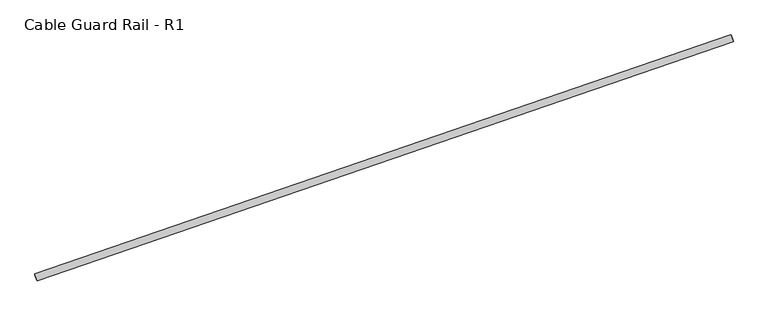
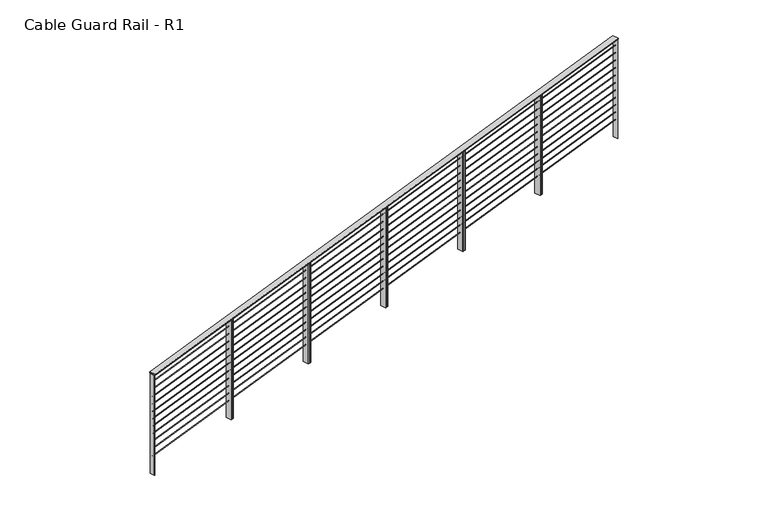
"""IFC4 building model written with IfcOpenShell, lengths in millimetres: railing geometry, Cable Guard Rail - R1."""

from ifc_helpers import new_model, si_unit, frame, origin, place, context, project, spatial, polyline, ellipse_curve, outline, extrude, faceted_brep, source, transform, mapped, element, save
from ifc_brep_helpers import plane_surface, cylinder_surface, advanced_brep


def cable_guard_rail_r1_10325f27(model_context):
    return source(origin(), model_context, "Body", "SolidModel", [
        faceted_brep([(47471.4211538, 187700.3635319, 295360.3531812), (47496.2244811, 187628.3133066, 295360.3531812), (47496.2244811, 187628.3133066, 295347.6346763), (47471.4211538, 187700.3635319, 295347.6346763), (40008.2186565, 185131.1522159, 294934.1079549), (40008.2186565, 185131.1522159, 294921.38945), (40033.0219837, 185059.1019907, 294921.38945), (40033.0219837, 185059.1019907, 294934.1079549)], [[[0, 1, 2, 3]], [[4, 5, 6, 7]], [[1, 0, 4, 7]], [[2, 1, 7, 6]], [[3, 2, 6, 5]], [[0, 3, 5, 4]]]),
        advanced_brep(
        [(47484.8562894, 187661.3363265, 295246.0531812), (47482.7893455, 187667.340512, 295246.0531812), (40021.6537921, 185092.1250106, 294819.8079549), (40019.5868481, 185098.129196, 294819.8079549)],
        [
            (0, 1, ellipse_curve(frame((47483.8228175, 187664.3384193, 295246.0531812), z_axis=(0.9455410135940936, 0.32550298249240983, 0.0), x_axis=(0.0, 0.0, 1.0)), 3.1796262, 3.175)),
            (1, 0, ellipse_curve(frame((47483.8228175, 187664.3384193, 295246.0531812), z_axis=(0.9455410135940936, 0.32550298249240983, 0.0), x_axis=(0.0, 0.0, 1.0)), 3.1796262, 3.175)),
            (2, 3, ellipse_curve(frame((40020.6203201, 185095.1271033, 294819.8079549), z_axis=(-0.9455410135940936, -0.32550298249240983, 0.0), x_axis=(0.0, 0.0, 1.0)), 3.1796262, 3.175)),
            (3, 2, ellipse_curve(frame((40020.6203201, 185095.1271033, 294819.8079549), z_axis=(-0.9455410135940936, -0.32550298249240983, 0.0), x_axis=(0.0, 0.0, 1.0)), 3.1796262, 3.175)),
            (0, 2),
            (3, 1),
        ],
        [
            plane_surface(frame((47483.8228175, 187664.3384193, 295246.0531812), z_axis=(0.9455410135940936, 0.32550298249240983, 0.0), x_axis=(0.32550298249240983, -0.9455410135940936, 0.0))),
            plane_surface(frame((40020.6203201, 185095.1271033, 294819.8079549), z_axis=(-0.9455410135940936, -0.32550298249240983, 0.0), x_axis=(0.32550298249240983, -0.9455410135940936, 0.0))),
            cylinder_surface(frame((47483.8228175, 187664.3384193, 295246.0531812), z_axis=(0.9441652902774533, 0.3250293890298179, 0.05392402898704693), x_axis=(-0.32550298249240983, 0.9455410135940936, 0.0)), 3.175),
        ],
        [
            (0, [[1, 2]]),
            (1, [[3, 4]]),
            (2, [[-1, 5, -4, 6]]),
            (2, [[-2, -6, -3, -5]]),
        ],
    ),
        advanced_brep(
        [(47484.8562894, 187661.3363265, 295144.4531812), (47482.7893455, 187667.340512, 295144.4531812), (40021.6537921, 185092.1250106, 294718.2079549), (40019.5868481, 185098.129196, 294718.2079549)],
        [
            (0, 1, ellipse_curve(frame((47483.8228175, 187664.3384193, 295144.4531812), z_axis=(0.9455410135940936, 0.32550298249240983, 0.0), x_axis=(0.0, 0.0, 1.0)), 3.1796262, 3.175)),
            (1, 0, ellipse_curve(frame((47483.8228175, 187664.3384193, 295144.4531812), z_axis=(0.9455410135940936, 0.32550298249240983, 0.0), x_axis=(0.0, 0.0, 1.0)), 3.1796262, 3.175)),
            (2, 3, ellipse_curve(frame((40020.6203201, 185095.1271033, 294718.2079549), z_axis=(-0.9455410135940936, -0.32550298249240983, 0.0), x_axis=(0.0, 0.0, 1.0)), 3.1796262, 3.175)),
            (3, 2, ellipse_curve(frame((40020.6203201, 185095.1271033, 294718.2079549), z_axis=(-0.9455410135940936, -0.32550298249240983, 0.0), x_axis=(0.0, 0.0, 1.0)), 3.1796262, 3.175)),
            (0, 2),
            (3, 1),
        ],
        [
            plane_surface(frame((47483.8228175, 187664.3384193, 295144.4531812), z_axis=(0.9455410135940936, 0.32550298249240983, 0.0), x_axis=(0.32550298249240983, -0.9455410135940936, 0.0))),
            plane_surface(frame((40020.6203201, 185095.1271033, 294718.2079549), z_axis=(-0.9455410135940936, -0.32550298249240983, 0.0), x_axis=(0.32550298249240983, -0.9455410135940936, 0.0))),
            cylinder_surface(frame((47483.8228175, 187664.3384193, 295144.4531812), z_axis=(0.9441652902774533, 0.3250293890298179, 0.05392402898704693), x_axis=(-0.32550298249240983, 0.9455410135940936, 0.0)), 3.175),
        ],
        [
            (0, [[1, 2]]),
            (1, [[3, 4]]),
            (2, [[-1, 5, -4, 6]]),
            (2, [[-2, -6, -3, -5]]),
        ],
    ),
        advanced_brep(
        [(47484.8562894, 187661.3363265, 295042.8531812), (47482.7893455, 187667.340512, 295042.8531812), (40021.6537921, 185092.1250106, 294616.6079549), (40019.5868481, 185098.129196, 294616.6079549)],
        [
            (0, 1, ellipse_curve(frame((47483.8228175, 187664.3384193, 295042.8531812), z_axis=(0.9455410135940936, 0.32550298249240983, 0.0), x_axis=(0.0, 0.0, 1.0)), 3.1796262, 3.175)),
            (1, 0, ellipse_curve(frame((47483.8228175, 187664.3384193, 295042.8531812), z_axis=(0.9455410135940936, 0.32550298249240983, 0.0), x_axis=(0.0, 0.0, 1.0)), 3.1796262, 3.175)),
            (2, 3, ellipse_curve(frame((40020.6203201, 185095.1271033, 294616.6079549), z_axis=(-0.9455410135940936, -0.32550298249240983, 0.0), x_axis=(0.0, 0.0, 1.0)), 3.1796262, 3.175)),
            (3, 2, ellipse_curve(frame((40020.6203201, 185095.1271033, 294616.6079549), z_axis=(-0.9455410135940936, -0.32550298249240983, 0.0), x_axis=(0.0, 0.0, 1.0)), 3.1796262, 3.175)),
            (0, 2),
            (3, 1),
        ],
        [
            plane_surface(frame((47483.8228175, 187664.3384193, 295042.8531812), z_axis=(0.9455410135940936, 0.32550298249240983, 0.0), x_axis=(0.32550298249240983, -0.9455410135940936, 0.0))),
            plane_surface(frame((40020.6203201, 185095.1271033, 294616.6079549), z_axis=(-0.9455410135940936, -0.32550298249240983, 0.0), x_axis=(0.32550298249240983, -0.9455410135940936, 0.0))),
            cylinder_surface(frame((47483.8228175, 187664.3384193, 295042.8531812), z_axis=(0.9441652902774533, 0.3250293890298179, 0.05392402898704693), x_axis=(-0.32550298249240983, 0.9455410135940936, 0.0)), 3.175),
        ],
        [
            (0, [[1, 2]]),
            (1, [[3, 4]]),
            (2, [[-1, 5, -4, 6]]),
            (2, [[-2, -6, -3, -5]]),
        ],
    ),
        advanced_brep(
        [(47484.8562894, 187661.3363265, 294941.2531812), (47482.7893455, 187667.340512, 294941.2531812), (40021.6537921, 185092.1250106, 294515.0079549), (40019.5868481, 185098.129196, 294515.0079549)],
        [
            (0, 1, ellipse_curve(frame((47483.8228175, 187664.3384193, 294941.2531812), z_axis=(0.9455410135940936, 0.32550298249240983, 0.0), x_axis=(0.0, 0.0, 1.0)), 3.1796262, 3.175)),
            (1, 0, ellipse_curve(frame((47483.8228175, 187664.3384193, 294941.2531812), z_axis=(0.9455410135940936, 0.32550298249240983, 0.0), x_axis=(0.0, 0.0, 1.0)), 3.1796262, 3.175)),
            (2, 3, ellipse_curve(frame((40020.6203201, 185095.1271033, 294515.0079549), z_axis=(-0.9455410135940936, -0.32550298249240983, 0.0), x_axis=(0.0, 0.0, 1.0)), 3.1796262, 3.175)),
            (3, 2, ellipse_curve(frame((40020.6203201, 185095.1271033, 294515.0079549), z_axis=(-0.9455410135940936, -0.32550298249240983, 0.0), x_axis=(0.0, 0.0, 1.0)), 3.1796262, 3.175)),
            (0, 2),
            (3, 1),
        ],
        [
            plane_surface(frame((47483.8228175, 187664.3384193, 294941.2531812), z_axis=(0.9455410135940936, 0.32550298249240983, 0.0), x_axis=(0.32550298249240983, -0.9455410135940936, 0.0))),
            plane_surface(frame((40020.6203201, 185095.1271033, 294515.0079549), z_axis=(-0.9455410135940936, -0.32550298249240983, 0.0), x_axis=(0.32550298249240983, -0.9455410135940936, 0.0))),
            cylinder_surface(frame((47483.8228175, 187664.3384193, 294941.2531812), z_axis=(0.9441652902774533, 0.3250293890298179, 0.05392402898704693), x_axis=(-0.32550298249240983, 0.9455410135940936, 0.0)), 3.175),
        ],
        [
            (0, [[1, 2]]),
            (1, [[3, 4]]),
            (2, [[-1, 5, -4, 6]]),
            (2, [[-2, -6, -3, -5]]),
        ],
    ),
        advanced_brep(
        [(47484.8562894, 187661.3363265, 294839.6531812), (47482.7893455, 187667.340512, 294839.6531812), (40021.6537921, 185092.1250106, 294413.4079549), (40019.5868481, 185098.129196, 294413.4079549)],
        [
            (0, 1, ellipse_curve(frame((47483.8228175, 187664.3384193, 294839.6531812), z_axis=(0.9455410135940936, 0.32550298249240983, 0.0), x_axis=(0.0, 0.0, 1.0)), 3.1796262, 3.175)),
            (1, 0, ellipse_curve(frame((47483.8228175, 187664.3384193, 294839.6531812), z_axis=(0.9455410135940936, 0.32550298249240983, 0.0), x_axis=(0.0, 0.0, 1.0)), 3.1796262, 3.175)),
            (2, 3, ellipse_curve(frame((40020.6203201, 185095.1271033, 294413.4079549), z_axis=(-0.9455410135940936, -0.32550298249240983, 0.0), x_axis=(0.0, 0.0, 1.0)), 3.1796262, 3.175)),
            (3, 2, ellipse_curve(frame((40020.6203201, 185095.1271033, 294413.4079549), z_axis=(-0.9455410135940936, -0.32550298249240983, 0.0), x_axis=(0.0, 0.0, 1.0)), 3.1796262, 3.175)),
            (0, 2),
            (3, 1),
        ],
        [
            plane_surface(frame((47483.8228175, 187664.3384193, 294839.6531812), z_axis=(0.9455410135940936, 0.32550298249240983, 0.0), x_axis=(0.32550298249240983, -0.9455410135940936, 0.0))),
            plane_surface(frame((40020.6203201, 185095.1271033, 294413.4079549), z_axis=(-0.9455410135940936, -0.32550298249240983, 0.0), x_axis=(0.32550298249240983, -0.9455410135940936, 0.0))),
            cylinder_surface(frame((47483.8228175, 187664.3384193, 294839.6531812), z_axis=(0.9441652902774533, 0.3250293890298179, 0.05392402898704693), x_axis=(-0.32550298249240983, 0.9455410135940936, 0.0)), 3.175),
        ],
        [
            (0, [[1, 2]]),
            (1, [[3, 4]]),
            (2, [[-1, 5, -4, 6]]),
            (2, [[-2, -6, -3, -5]]),
        ],
    ),
        advanced_brep(
        [(47484.8562894, 187661.3363265, 294738.0531812), (47482.7893455, 187667.340512, 294738.0531812), (40021.6537921, 185092.1250106, 294311.8079549), (40019.5868481, 185098.129196, 294311.8079549)],
        [
            (0, 1, ellipse_curve(frame((47483.8228175, 187664.3384193, 294738.0531812), z_axis=(0.9455410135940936, 0.32550298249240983, 0.0), x_axis=(0.0, 0.0, 1.0)), 3.1796262, 3.175)),
            (1, 0, ellipse_curve(frame((47483.8228175, 187664.3384193, 294738.0531812), z_axis=(0.9455410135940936, 0.32550298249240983, 0.0), x_axis=(0.0, 0.0, 1.0)), 3.1796262, 3.175)),
            (2, 3, ellipse_curve(frame((40020.6203201, 185095.1271033, 294311.8079549), z_axis=(-0.9455410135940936, -0.32550298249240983, 0.0), x_axis=(0.0, 0.0, 1.0)), 3.1796262, 3.175)),
            (3, 2, ellipse_curve(frame((40020.6203201, 185095.1271033, 294311.8079549), z_axis=(-0.9455410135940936, -0.32550298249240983, 0.0), x_axis=(0.0, 0.0, 1.0)), 3.1796262, 3.175)),
            (0, 2),
            (3, 1),
        ],
        [
            plane_surface(frame((47483.8228175, 187664.3384193, 294738.0531812), z_axis=(0.9455410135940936, 0.32550298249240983, 0.0), x_axis=(0.32550298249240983, -0.9455410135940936, 0.0))),
            plane_surface(frame((40020.6203201, 185095.1271033, 294311.8079549), z_axis=(-0.9455410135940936, -0.32550298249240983, 0.0), x_axis=(0.32550298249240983, -0.9455410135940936, 0.0))),
            cylinder_surface(frame((47483.8228175, 187664.3384193, 294738.0531812), z_axis=(0.9441652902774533, 0.3250293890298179, 0.05392402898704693), x_axis=(-0.32550298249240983, 0.9455410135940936, 0.0)), 3.175),
        ],
        [
            (0, [[1, 2]]),
            (1, [[3, 4]]),
            (2, [[-1, 5, -4, 6]]),
            (2, [[-2, -6, -3, -5]]),
        ],
    ),
        advanced_brep(
        [(47484.8562894, 187661.3363265, 294636.4531812), (47482.7893455, 187667.340512, 294636.4531812), (40021.6537921, 185092.1250106, 294210.2079549), (40019.5868481, 185098.129196, 294210.2079549)],
        [
            (0, 1, ellipse_curve(frame((47483.8228175, 187664.3384193, 294636.4531812), z_axis=(0.9455410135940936, 0.32550298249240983, 0.0), x_axis=(0.0, 0.0, 1.0)), 3.1796262, 3.175)),
            (1, 0, ellipse_curve(frame((47483.8228175, 187664.3384193, 294636.4531812), z_axis=(0.9455410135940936, 0.32550298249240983, 0.0), x_axis=(0.0, 0.0, 1.0)), 3.1796262, 3.175)),
            (2, 3, ellipse_curve(frame((40020.6203201, 185095.1271033, 294210.2079549), z_axis=(-0.9455410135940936, -0.32550298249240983, 0.0), x_axis=(0.0, 0.0, 1.0)), 3.1796262, 3.175)),
            (3, 2, ellipse_curve(frame((40020.6203201, 185095.1271033, 294210.2079549), z_axis=(-0.9455410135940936, -0.32550298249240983, 0.0), x_axis=(0.0, 0.0, 1.0)), 3.1796262, 3.175)),
            (0, 2),
            (3, 1),
        ],
        [
            plane_surface(frame((47483.8228175, 187664.3384193, 294636.4531812), z_axis=(0.9455410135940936, 0.32550298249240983, 0.0), x_axis=(0.32550298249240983, -0.9455410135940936, 0.0))),
            plane_surface(frame((40020.6203201, 185095.1271033, 294210.2079549), z_axis=(-0.9455410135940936, -0.32550298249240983, 0.0), x_axis=(0.32550298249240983, -0.9455410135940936, 0.0))),
            cylinder_surface(frame((47483.8228175, 187664.3384193, 294636.4531812), z_axis=(0.9441652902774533, 0.3250293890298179, 0.05392402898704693), x_axis=(-0.32550298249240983, 0.9455410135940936, 0.0)), 3.175),
        ],
        [
            (0, [[1, 2]]),
            (1, [[3, 4]]),
            (2, [[-1, 5, -4, 6]]),
            (2, [[-2, -6, -3, -5]]),
        ],
    ),
        advanced_brep(
        [(47484.8562894, 187661.3363265, 294534.8531812), (47482.7893455, 187667.340512, 294534.8531812), (40021.6537921, 185092.1250106, 294108.6079549), (40019.5868481, 185098.129196, 294108.6079549)],
        [
            (0, 1, ellipse_curve(frame((47483.8228175, 187664.3384193, 294534.8531812), z_axis=(0.9455410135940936, 0.32550298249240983, 0.0), x_axis=(0.0, 0.0, 1.0)), 3.1796262, 3.175)),
            (1, 0, ellipse_curve(frame((47483.8228175, 187664.3384193, 294534.8531812), z_axis=(0.9455410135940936, 0.32550298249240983, 0.0), x_axis=(0.0, 0.0, 1.0)), 3.1796262, 3.175)),
            (2, 3, ellipse_curve(frame((40020.6203201, 185095.1271033, 294108.6079549), z_axis=(-0.9455410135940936, -0.32550298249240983, 0.0), x_axis=(0.0, 0.0, 1.0)), 3.1796262, 3.175)),
            (3, 2, ellipse_curve(frame((40020.6203201, 185095.1271033, 294108.6079549), z_axis=(-0.9455410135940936, -0.32550298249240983, 0.0), x_axis=(0.0, 0.0, 1.0)), 3.1796262, 3.175)),
            (0, 2),
            (3, 1),
        ],
        [
            plane_surface(frame((47483.8228175, 187664.3384193, 294534.8531812), z_axis=(0.9455410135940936, 0.32550298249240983, 0.0), x_axis=(0.32550298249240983, -0.9455410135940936, 0.0))),
            plane_surface(frame((40020.6203201, 185095.1271033, 294108.6079549), z_axis=(-0.9455410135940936, -0.32550298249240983, 0.0), x_axis=(0.32550298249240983, -0.9455410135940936, 0.0))),
            cylinder_surface(frame((47483.8228175, 187664.3384193, 294534.8531812), z_axis=(0.9441652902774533, 0.3250293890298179, 0.05392402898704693), x_axis=(-0.32550298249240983, 0.9455410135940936, 0.0)), 3.175),
        ],
        [
            (0, [[1, 2]]),
            (1, [[3, 4]]),
            (2, [[-1, 5, -4, 6]]),
            (2, [[-2, -6, -3, -5]]),
        ],
    ),
        advanced_brep(
        [(47484.8562894, 187661.3363265, 294433.2531812), (47482.7893455, 187667.340512, 294433.2531812), (40021.6537921, 185092.1250106, 294007.0079549), (40019.5868481, 185098.129196, 294007.0079549)],
        [
            (0, 1, ellipse_curve(frame((47483.8228175, 187664.3384193, 294433.2531812), z_axis=(0.9455410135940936, 0.32550298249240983, 0.0), x_axis=(0.0, 0.0, 1.0)), 3.1796262, 3.175)),
            (1, 0, ellipse_curve(frame((47483.8228175, 187664.3384193, 294433.2531812), z_axis=(0.9455410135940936, 0.32550298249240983, 0.0), x_axis=(0.0, 0.0, 1.0)), 3.1796262, 3.175)),
            (2, 3, ellipse_curve(frame((40020.6203201, 185095.1271033, 294007.0079549), z_axis=(-0.9455410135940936, -0.32550298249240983, 0.0), x_axis=(0.0, 0.0, 1.0)), 3.1796262, 3.175)),
            (3, 2, ellipse_curve(frame((40020.6203201, 185095.1271033, 294007.0079549), z_axis=(-0.9455410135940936, -0.32550298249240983, 0.0), x_axis=(0.0, 0.0, 1.0)), 3.1796262, 3.175)),
            (0, 2),
            (3, 1),
        ],
        [
            plane_surface(frame((47483.8228175, 187664.3384193, 294433.2531812), z_axis=(0.9455410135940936, 0.32550298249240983, 0.0), x_axis=(0.32550298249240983, -0.9455410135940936, 0.0))),
            plane_surface(frame((40020.6203201, 185095.1271033, 294007.0079549), z_axis=(-0.9455410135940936, -0.32550298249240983, 0.0), x_axis=(0.32550298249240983, -0.9455410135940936, 0.0))),
            cylinder_surface(frame((47483.8228175, 187664.3384193, 294433.2531812), z_axis=(0.9441652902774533, 0.3250293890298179, 0.05392402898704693), x_axis=(-0.32550298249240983, 0.9455410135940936, 0.0)), 3.175),
        ],
        [
            (0, [[1, 2]]),
            (1, [[3, 4]]),
            (2, [[-1, 5, -4, 6]]),
            (2, [[-2, -6, -3, -5]]),
        ],
    ),
        advanced_brep(
        [(47484.8562894, 187661.3363265, 294331.6531812), (47482.7893455, 187667.340512, 294331.6531812), (40021.6537921, 185092.1250106, 293905.4079549), (40019.5868481, 185098.129196, 293905.4079549)],
        [
            (0, 1, ellipse_curve(frame((47483.8228175, 187664.3384193, 294331.6531812), z_axis=(0.9455410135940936, 0.32550298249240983, 0.0), x_axis=(0.0, 0.0, 1.0)), 3.1796262, 3.175)),
            (1, 0, ellipse_curve(frame((47483.8228175, 187664.3384193, 294331.6531812), z_axis=(0.9455410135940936, 0.32550298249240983, 0.0), x_axis=(0.0, 0.0, 1.0)), 3.1796262, 3.175)),
            (2, 3, ellipse_curve(frame((40020.6203201, 185095.1271033, 293905.4079549), z_axis=(-0.9455410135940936, -0.32550298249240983, 0.0), x_axis=(0.0, 0.0, 1.0)), 3.1796262, 3.175)),
            (3, 2, ellipse_curve(frame((40020.6203201, 185095.1271033, 293905.4079549), z_axis=(-0.9455410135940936, -0.32550298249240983, 0.0), x_axis=(0.0, 0.0, 1.0)), 3.1796262, 3.175)),
            (0, 2),
            (3, 1),
        ],
        [
            plane_surface(frame((47483.8228175, 187664.3384193, 294331.6531812), z_axis=(0.9455410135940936, 0.32550298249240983, 0.0), x_axis=(0.32550298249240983, -0.9455410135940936, 0.0))),
            plane_surface(frame((40020.6203201, 185095.1271033, 293905.4079549), z_axis=(-0.9455410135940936, -0.32550298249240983, 0.0), x_axis=(0.32550298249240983, -0.9455410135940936, 0.0))),
            cylinder_surface(frame((47483.8228175, 187664.3384193, 294331.6531812), z_axis=(0.9441652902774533, 0.3250293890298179, 0.05392402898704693), x_axis=(-0.32550298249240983, 0.9455410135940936, 0.0)), 3.175),
        ],
        [
            (0, [[1, 2]]),
            (1, [[3, 4]]),
            (2, [[-1, 5, -4, 6]]),
            (2, [[-2, -6, -3, -5]]),
        ],
    ),
        advanced_brep(
        [(47484.8562894, 187661.3363265, 294230.0531812), (47482.7893455, 187667.340512, 294230.0531812), (40021.6537921, 185092.1250106, 293803.8079549), (40019.5868481, 185098.129196, 293803.8079549)],
        [
            (0, 1, ellipse_curve(frame((47483.8228175, 187664.3384193, 294230.0531812), z_axis=(0.9455410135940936, 0.32550298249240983, 0.0), x_axis=(0.0, 0.0, 1.0)), 3.1796262, 3.175)),
            (1, 0, ellipse_curve(frame((47483.8228175, 187664.3384193, 294230.0531812), z_axis=(0.9455410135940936, 0.32550298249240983, 0.0), x_axis=(0.0, 0.0, 1.0)), 3.1796262, 3.175)),
            (2, 3, ellipse_curve(frame((40020.6203201, 185095.1271033, 293803.8079549), z_axis=(-0.9455410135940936, -0.32550298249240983, 0.0), x_axis=(0.0, 0.0, 1.0)), 3.1796262, 3.175)),
            (3, 2, ellipse_curve(frame((40020.6203201, 185095.1271033, 293803.8079549), z_axis=(-0.9455410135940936, -0.32550298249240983, 0.0), x_axis=(0.0, 0.0, 1.0)), 3.1796262, 3.175)),
            (0, 2),
            (3, 1),
        ],
        [
            plane_surface(frame((47483.8228175, 187664.3384193, 294230.0531812), z_axis=(0.9455410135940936, 0.32550298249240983, 0.0), x_axis=(0.32550298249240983, -0.9455410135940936, 0.0))),
            plane_surface(frame((40020.6203201, 185095.1271033, 293803.8079549), z_axis=(-0.9455410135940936, -0.32550298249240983, 0.0), x_axis=(0.32550298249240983, -0.9455410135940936, 0.0))),
            cylinder_surface(frame((47483.8228175, 187664.3384193, 294230.0531812), z_axis=(0.9441652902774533, 0.3250293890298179, 0.05392402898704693), x_axis=(-0.32550298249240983, 0.9455410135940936, 0.0)), 3.175),
        ],
        [
            (0, [[1, 2]]),
            (1, [[3, 4]]),
            (2, [[-1, 5, -4, 6]]),
            (2, [[-2, -6, -3, -5]]),
        ],
    ),
        extrude(outline(polyline([(41297.9037157, 185494.5381805), (41288.8974375, 185491.4377646), (41264.0941102, 185563.4879898), (41273.1003884, 185566.5884057), (41297.9037157, 185494.5381805)])), frame((0.0, 0.0, 293627.1988259), z_axis=(0.0, 0.0, 1.0), x_axis=(1.0, 0.0, 0.0)), (0.0, 0.0, 1.0), 1365.25),
        extrude(outline(polyline([(41270.8848812, 185485.2369327), (41261.9242116, 185482.1522176), (41237.1208843, 185554.2024428), (41246.0815539, 185557.287158), (41270.8848812, 185485.2369327)])), frame((0.0, 0.0, 293627.1988259), z_axis=(0.0, 0.0, 1.0), x_axis=(1.0, 0.0, 0.0)), (0.0, 0.0, 1.0), 1365.25),
        extrude(outline(polyline([(42541.7707986, 185922.7400665), (42532.7645204, 185919.6396505), (42507.9611931, 185991.6898758), (42516.9674713, 185994.7902917), (42541.7707986, 185922.7400665)])), frame((0.0, 0.0, 293698.239697), z_axis=(0.0, 0.0, 1.0), x_axis=(1.0, 0.0, 0.0)), (0.0, 0.0, 1.0), 1365.25),
        extrude(outline(polyline([(42514.7519641, 185913.4388187), (42505.7912945, 185910.3541036), (42480.9879672, 185982.4043288), (42489.9486368, 185985.489044), (42514.7519641, 185913.4388187)])), frame((0.0, 0.0, 293698.239697), z_axis=(0.0, 0.0, 1.0), x_axis=(1.0, 0.0, 0.0)), (0.0, 0.0, 1.0), 1365.25),
        extrude(outline(polyline([(43785.6378814, 186350.9419524), (43776.6316033, 186347.8415365), (43751.828276, 186419.8917618), (43760.8345542, 186422.9921777), (43785.6378814, 186350.9419524)])), frame((0.0, 0.0, 293769.280568), z_axis=(0.0, 0.0, 1.0), x_axis=(1.0, 0.0, 0.0)), (0.0, 0.0, 1.0), 1365.25),
        extrude(outline(polyline([(43758.619047, 186341.6407047), (43749.6583774, 186338.5559896), (43724.8550501, 186410.6062148), (43733.8157197, 186413.69093), (43758.619047, 186341.6407047)])), frame((0.0, 0.0, 293769.280568), z_axis=(0.0, 0.0, 1.0), x_axis=(1.0, 0.0, 0.0)), (0.0, 0.0, 1.0), 1365.25),
        extrude(outline(polyline([(45029.5049643, 186779.1438384), (45020.4986862, 186776.0434225), (44995.6953589, 186848.0936478), (45004.7016371, 186851.1940637), (45029.5049643, 186779.1438384)])), frame((0.0, 0.0, 293840.3214391), z_axis=(0.0, 0.0, 1.0), x_axis=(1.0, 0.0, 0.0)), (0.0, 0.0, 1.0), 1365.25),
        extrude(outline(polyline([(45002.4861299, 186769.8425907), (44993.5254603, 186766.7578756), (44968.722133, 186838.8081008), (44977.6828026, 186841.892816), (45002.4861299, 186769.8425907)])), frame((0.0, 0.0, 293840.3214391), z_axis=(0.0, 0.0, 1.0), x_axis=(1.0, 0.0, 0.0)), (0.0, 0.0, 1.0), 1365.25),
        extrude(outline(polyline([(46273.3720472, 187207.3457244), (46264.3657691, 187204.2453085), (46239.5624418, 187276.2955338), (46248.56872, 187279.3959497), (46273.3720472, 187207.3457244)])), frame((0.0, 0.0, 293911.3623101), z_axis=(0.0, 0.0, 1.0), x_axis=(1.0, 0.0, 0.0)), (0.0, 0.0, 1.0), 1365.25),
        extrude(outline(polyline([(46246.3532128, 187198.0444767), (46237.3925431, 187194.9597616), (46212.5892159, 187267.0099868), (46221.5498855, 187270.0947019), (46246.3532128, 187198.0444767)])), frame((0.0, 0.0, 293911.3623101), z_axis=(0.0, 0.0, 1.0), x_axis=(1.0, 0.0, 0.0)), (0.0, 0.0, 1.0), 1365.25),
        extrude(outline(polyline([(40033.9571325, 185066.1396481), (40027.9529471, 185064.0727041), (40007.2835077, 185124.1145585), (40013.2876931, 185126.1815025), (40033.9571325, 185066.1396481)])), frame((0.0, 0.0, 293556.1579549), z_axis=(0.0, 0.0, 1.0), x_axis=(1.0, 0.0, 0.0)), (0.0, 0.0, 1.0), 1365.25),
        extrude(outline(polyline([(47497.1596299, 187635.3509641), (47491.1554444, 187633.2840201), (47470.486005, 187693.3258745), (47476.4901905, 187695.3928184), (47497.1596299, 187635.3509641)])), frame((0.0, 0.0, 293982.4031812), z_axis=(0.0, 0.0, 1.0), x_axis=(1.0, 0.0, 0.0)), (0.0, 0.0, 1.0), 1365.25),
    ])


if __name__ == "__main__":
    model = new_model("IFC4")
    model_context = context("Model", 3, world=origin())
    ifc_project = project(units=[si_unit("LENGTHUNIT", "METRE", prefix="MILLI")], contexts=[model_context])
    site = spatial("IfcSite", under=ifc_project)
    building = spatial("IfcBuilding", under=site)
    placement = place(None, origin())
    cable_guard_rail_r1_shape = cable_guard_rail_r1_10325f27(model_context)
    element("IfcRailing", 1, ObjectType="Cable Guard Rail - R1", at=placement, inside=building, context=model_context, shape_type="MappedRepresentation", body=[
        mapped(cable_guard_rail_r1_shape, transform((0.0, 0.0, 0.0), x_axis=(1.0, 0.0, 0.0), y_axis=(0.0, 1.0, 0.0), z_axis=(0.0, 0.0, 1.0))),
    ])
    save(model, "model.ifc")
